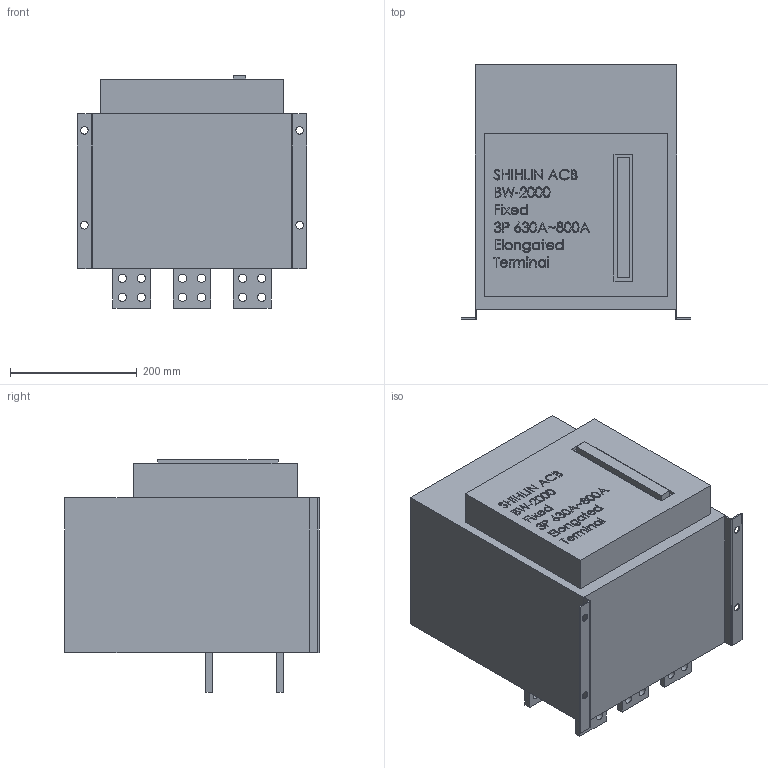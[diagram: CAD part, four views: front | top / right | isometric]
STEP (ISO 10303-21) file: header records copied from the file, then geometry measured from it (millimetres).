
FILE_DESCRIPTION (( 'STEP AP203' ), '1' );
FILE_NAME ('BW-2000-Fixed-3P-630-800A-Elongated Terminal.STEP', '2020-04-09T10:46:46', ( '' ), ( '' ), 'SwSTEP 2.0', 'SolidWorks 2017', '' );
FILE_SCHEMA (( 'CONFIG_CONTROL_DESIGN' ));
Length unit declared in the file: millimetre
Products named in the file (1): BW-2000-Fixed-3P-630-800A-Elongated Terminal
Bounding box: 362 x 402 x 367 mm (x, y, z)
Volume: 34415587.7 mm3; surface area: 785614.4 mm2
Topology: 3 solids, 3 shells, 777 faces, 2052 edges, 1368 vertices
Faces by surface type: plane 427, bspline 292, cylinder 58
Entity records: 39943 total; most frequent: CARTESIAN_POINT 22378, ORIENTED_EDGE 4104, DIRECTION 2556, EDGE_CURVE 2052, VERTEX_POINT 1368, VECTOR 1352, LINE 1352, EDGE_LOOP 920
